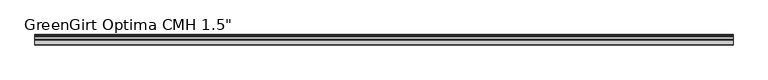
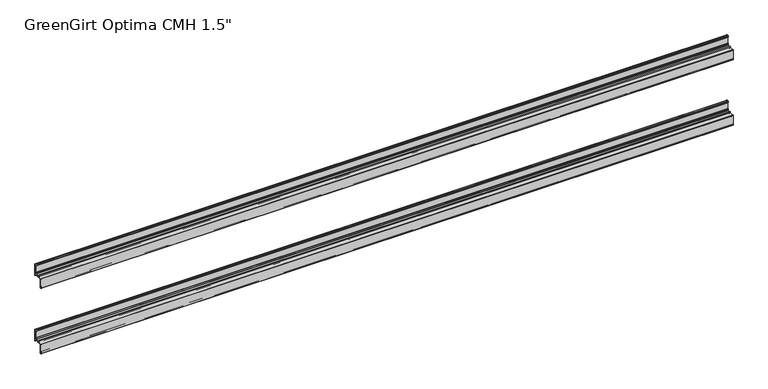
"""IFC4 building model written with IfcOpenShell, lengths in millimetres: fastener geometry."""

from ifc_helpers import new_model, si_unit, frame, origin, place, context, project, spatial, polyline, circle_curve, outline, extrude, source, transform, mapped, element, save
from ifc_brep_helpers import plane_surface, cylinder_surface, revolved_surface, advanced_brep


def fastener_0524ba7f(model_context):
    return source(origin(), model_context, "Body", "SolidModel", [
        advanced_brep(
        [(2540.1186361, -2.794, 1898.269), (2540.1186361, -2.794, 1866.9), (2540.1186361, -4.5212, 1866.9), (2540.1186361, -4.5212, 1871.091), (2540.1186361, -6.5532, 1871.091), (2540.1186361, -6.5532, 1866.9), (2540.1186361, -7.3152, 1866.138), (2540.1186361, -17.7601563, 1866.138), (2540.1186361, -17.7601563, 1866.9864433), (2540.1186361, -20.4288947, 1866.9864433), (2540.1186361, -20.4288947, 1866.138), (2540.1186361, -37.3379766, 1866.138), (2540.1186361, -38.0999766, 1865.376), (2540.1186361, -38.1, 1829.5196758), (2540.1186361, -37.3379766, 1828.8), (2540.1186361, -34.4677766, 1828.8), (2540.1186361, -32.4357766, 1830.832), (2540.1186361, -32.4357766, 1833.118), (2540.1186361, -34.4677766, 1833.118), (2540.1186361, -34.4677766, 1832.102), (2540.1186361, -36.1949766, 1832.102), (2540.1186361, -36.1949766, 1863.471), (2540.1186361, -34.4677766, 1863.471), (2540.1186361, -34.4677766, 1859.28), (2540.1186361, -32.4357766, 1859.28), (2540.1186361, -32.4357766, 1863.471), (2540.1186361, -31.6737766, 1864.233), (2540.1186361, -20.4279799, 1864.233), (2540.1186361, -20.4279799, 1863.3840993), (2540.1186361, -17.7601563, 1863.3840993), (2540.1186361, -17.7601563, 1864.233), (2540.1186361, -2.667, 1864.233), (2540.1186361, -1.905, 1863.471), (2540.1186361, -1.905, 1857.375), (2540.1186361, 0.0, 1857.375), (2540.1186361, 0.0, 1900.809), (2540.1186361, -0.762, 1901.571), (2540.1186361, -4.5212, 1901.571), (2540.1186361, -6.5532, 1899.539), (2540.1186361, -6.5532, 1897.253), (2540.1186361, -4.5212, 1897.253), (2540.1186361, -4.5212, 1898.269), (0.0, -2.794, 1898.269), (0.0, -4.5212, 1898.269), (0.0, -4.5212, 1897.253), (0.0, -6.5532, 1897.253), (0.0, -6.5532, 1899.539), (0.0, -4.5212, 1901.571), (0.0, -0.762, 1901.571), (0.0, 0.0, 1900.809), (0.0, 0.0, 1857.375), (0.0, -1.905, 1857.375), (0.0, -1.905, 1863.471), (0.0, -2.667, 1864.233), (0.0, -17.7601563, 1864.233), (0.0, -17.7601563, 1863.3840993), (0.0, -20.4279799, 1863.3840993), (0.0, -20.4279799, 1864.233), (0.0, -31.6737766, 1864.233), (0.0, -32.4357766, 1863.471), (0.0, -32.4357766, 1859.28), (0.0, -34.4677766, 1859.28), (0.0, -34.4677766, 1863.471), (0.0, -36.1949766, 1863.471), (0.0, -36.1949766, 1832.102), (0.0, -34.4677766, 1832.102), (0.0, -34.4677766, 1833.118), (0.0, -32.4357766, 1833.118), (0.0, -32.4357766, 1830.832), (0.0, -34.4677766, 1828.8), (0.0, -37.3379766, 1828.8), (0.0, -38.0999766, 1829.562), (0.0, -38.1, 1865.4033226), (0.0, -37.3379766, 1866.138), (0.0, -20.4288947, 1866.138), (0.0, -20.4288947, 1866.9864433), (0.0, -17.7601563, 1866.9864433), (0.0, -17.7601563, 1866.138), (0.0, -7.3152, 1866.138), (0.0, -6.5532, 1866.9), (0.0, -6.5532, 1871.091), (0.0, -4.5212, 1871.091), (0.0, -4.5212, 1866.9), (0.0, -2.794, 1866.9)],
        [
            (0, 1),
            (1, 2, circle_curve(frame((2540.1186361, -3.6576, 1866.9), z_axis=(-1.0, 0.0, 0.0), x_axis=(0.0, 1.0, 0.0)), 0.8636)),
            (2, 3),
            (3, 4, circle_curve(frame((2540.1186361, -5.5372, 1871.091), z_axis=(1.0, 0.0, 0.0), x_axis=(0.0, 1.0, 0.0)), 1.016)),
            (4, 5),
            (5, 6, circle_curve(frame((2540.1186361, -7.3152, 1866.9), z_axis=(-1.0, 0.0, 0.0), x_axis=(0.0, 1.0, 0.0)), 0.762)),
            (6, 7),
            (7, 8),
            (8, 9, circle_curve(frame((2540.1186361, -19.0945255, 1866.9864433), z_axis=(1.0, 0.0, 0.0), x_axis=(0.0, 1.0, 0.0)), 1.3343692)),
            (9, 10),
            (10, 11),
            (11, 12, circle_curve(frame((2540.1186361, -37.3379766, 1865.376), z_axis=(1.0, 0.0, 0.0), x_axis=(0.0, 1.0, 0.0)), 0.762)),
            (12, 13),
            (13, 14, circle_curve(frame((2540.1186361, -37.3379766, 1829.562), z_axis=(1.0, 0.0, 0.0), x_axis=(0.0, 1.0, 0.0)), 0.762)),
            (14, 15),
            (15, 16, circle_curve(frame((2540.1186361, -34.4677766, 1830.832), z_axis=(1.0, 0.0, 0.0), x_axis=(0.0, 1.0, 0.0)), 2.032)),
            (16, 17),
            (17, 18, circle_curve(frame((2540.1186361, -33.4517766, 1833.118), z_axis=(1.0, 0.0, 0.0), x_axis=(0.0, 1.0, 0.0)), 1.016)),
            (18, 19),
            (19, 20, circle_curve(frame((2540.1186361, -35.3313766, 1832.102), z_axis=(-1.0, 0.0, 0.0), x_axis=(0.0, 1.0, 0.0)), 0.8636)),
            (20, 21),
            (21, 22, circle_curve(frame((2540.1186361, -35.3313766, 1863.471), z_axis=(-1.0, 0.0, 0.0), x_axis=(0.0, 1.0, 0.0)), 0.8636)),
            (22, 23),
            (23, 24, circle_curve(frame((2540.1186361, -33.4517766, 1859.28), z_axis=(1.0, 0.0, 0.0), x_axis=(0.0, 1.0, 0.0)), 1.016)),
            (24, 25),
            (25, 26, circle_curve(frame((2540.1186361, -31.6737766, 1863.471), z_axis=(-1.0, 0.0, 0.0), x_axis=(0.0, 1.0, 0.0)), 0.762)),
            (26, 27),
            (27, 28),
            (28, 29, circle_curve(frame((2540.1186361, -19.0940681, 1863.3840993), z_axis=(1.0, 0.0, 0.0), x_axis=(0.0, 1.0, 0.0)), 1.3339118)),
            (29, 30),
            (30, 31),
            (31, 32, circle_curve(frame((2540.1186361, -2.667, 1863.471), z_axis=(-1.0, 0.0, 0.0), x_axis=(0.0, 1.0, 0.0)), 0.762)),
            (32, 33),
            (33, 34, circle_curve(frame((2540.1186361, -0.9525, 1857.375), z_axis=(1.0, 0.0, 0.0), x_axis=(0.0, 1.0, 0.0)), 0.9525)),
            (34, 35),
            (35, 36, circle_curve(frame((2540.1186361, -0.762, 1900.809), z_axis=(1.0, 0.0, 0.0), x_axis=(0.0, 1.0, 0.0)), 0.762)),
            (36, 37),
            (37, 38, circle_curve(frame((2540.1186361, -4.5212, 1899.539), z_axis=(1.0, 0.0, 0.0), x_axis=(0.0, 1.0, 0.0)), 2.032)),
            (38, 39),
            (39, 40, circle_curve(frame((2540.1186361, -5.5372, 1897.253), z_axis=(1.0, 0.0, 0.0), x_axis=(0.0, 1.0, 0.0)), 1.016)),
            (40, 41),
            (41, 0, circle_curve(frame((2540.1186361, -3.6576, 1898.269), z_axis=(-1.0, 0.0, 0.0), x_axis=(0.0, 1.0, 0.0)), 0.8636)),
            (42, 43, circle_curve(frame((0.0, -3.6576, 1898.269), z_axis=(1.0, 0.0, 0.0), x_axis=(0.0, 1.0, 0.0)), 0.8636)),
            (43, 44),
            (44, 45, circle_curve(frame((0.0, -5.5372, 1897.253), z_axis=(-1.0, 0.0, 0.0), x_axis=(0.0, 1.0, 0.0)), 1.016)),
            (45, 46),
            (46, 47, circle_curve(frame((0.0, -4.5212, 1899.539), z_axis=(-1.0, 0.0, 0.0), x_axis=(0.0, 1.0, 0.0)), 2.032)),
            (47, 48),
            (48, 49, circle_curve(frame((0.0, -0.762, 1900.809), z_axis=(-1.0, 0.0, 0.0), x_axis=(0.0, 1.0, 0.0)), 0.762)),
            (49, 50),
            (50, 51, circle_curve(frame((0.0, -0.9525, 1857.375), z_axis=(-1.0, 0.0, 0.0), x_axis=(0.0, 1.0, 0.0)), 0.9525)),
            (51, 52),
            (52, 53, circle_curve(frame((0.0, -2.667, 1863.471), z_axis=(1.0, 0.0, 0.0), x_axis=(0.0, 1.0, 0.0)), 0.762)),
            (53, 54),
            (54, 55),
            (55, 56, circle_curve(frame((0.0, -19.0940681, 1863.3840993), z_axis=(-1.0, 0.0, 0.0), x_axis=(0.0, 1.0, 0.0)), 1.3339118)),
            (56, 57),
            (57, 58),
            (58, 59, circle_curve(frame((0.0, -31.6737766, 1863.471), z_axis=(1.0, 0.0, 0.0), x_axis=(0.0, 1.0, 0.0)), 0.762)),
            (59, 60),
            (60, 61, circle_curve(frame((0.0, -33.4517766, 1859.28), z_axis=(-1.0, 0.0, 0.0), x_axis=(0.0, 1.0, 0.0)), 1.016)),
            (61, 62),
            (62, 63, circle_curve(frame((0.0, -35.3313766, 1863.471), z_axis=(1.0, 0.0, 0.0), x_axis=(0.0, 1.0, 0.0)), 0.8636)),
            (63, 64),
            (64, 65, circle_curve(frame((0.0, -35.3313766, 1832.102), z_axis=(1.0, 0.0, 0.0), x_axis=(0.0, 1.0, 0.0)), 0.8636)),
            (65, 66),
            (66, 67, circle_curve(frame((0.0, -33.4517766, 1833.118), z_axis=(-1.0, 0.0, 0.0), x_axis=(0.0, 1.0, 0.0)), 1.016)),
            (67, 68),
            (68, 69, circle_curve(frame((0.0, -34.4677766, 1830.832), z_axis=(-1.0, 0.0, 0.0), x_axis=(0.0, 1.0, 0.0)), 2.032)),
            (69, 70),
            (70, 71, circle_curve(frame((0.0, -37.3379766, 1829.562), z_axis=(-1.0, 0.0, 0.0), x_axis=(0.0, 1.0, 0.0)), 0.762)),
            (71, 72),
            (72, 73, circle_curve(frame((0.0, -37.3379766, 1865.376), z_axis=(-1.0, 0.0, 0.0), x_axis=(0.0, 1.0, 0.0)), 0.762)),
            (73, 74),
            (74, 75),
            (75, 76, circle_curve(frame((0.0, -19.0945255, 1866.9864433), z_axis=(-1.0, 0.0, 0.0), x_axis=(0.0, 1.0, 0.0)), 1.3343692)),
            (76, 77),
            (77, 78),
            (78, 79, circle_curve(frame((0.0, -7.3152, 1866.9), z_axis=(1.0, 0.0, 0.0), x_axis=(0.0, 1.0, 0.0)), 0.762)),
            (79, 80),
            (80, 81, circle_curve(frame((0.0, -5.5372, 1871.091), z_axis=(-1.0, 0.0, 0.0), x_axis=(0.0, 1.0, 0.0)), 1.016)),
            (81, 82),
            (82, 83, circle_curve(frame((0.0, -3.6576, 1866.9), z_axis=(1.0, 0.0, 0.0), x_axis=(0.0, 1.0, 0.0)), 0.8636)),
            (83, 42),
            (0, 42),
            (83, 1),
            (82, 2),
            (81, 3),
            (80, 4),
            (79, 5),
            (78, 6),
            (77, 7),
            (76, 8),
            (75, 9),
            (74, 10),
            (73, 11),
            (72, 12),
            (71, 13),
            (70, 14),
            (69, 15),
            (68, 16),
            (67, 17),
            (66, 18),
            (65, 19),
            (64, 20),
            (63, 21),
            (62, 22),
            (61, 23),
            (60, 24),
            (59, 25),
            (58, 26),
            (57, 27),
            (56, 28),
            (55, 29),
            (54, 30),
            (53, 31),
            (52, 32),
            (51, 33),
            (50, 34),
            (49, 35),
            (48, 36),
            (47, 37),
            (46, 38),
            (45, 39),
            (44, 40),
            (43, 41),
        ],
        [
            plane_surface(frame((2540.1186361, -2.794, 1866.9), z_axis=(1.0, 0.0, 0.0), x_axis=(0.0, 0.0, -1.0))),
            plane_surface(frame((0.0, -2.794, 1866.9), z_axis=(-1.0, 0.0, 0.0), x_axis=(0.0, 0.0, 1.0))),
            plane_surface(frame((2540.1186361, -2.794, 1898.269), z_axis=(0.0, -1.0, 0.0), x_axis=(-1.0, 0.0, 0.0))),
            revolved_surface(polyline([(0.0, -2.794, 1866.9), (2540.1186361, -2.794, 1866.9)]), (0.0, -3.6576, 1866.9), (-1.0, 0.0, 0.0)),
            plane_surface(frame((2540.1186361, -4.5212, 1866.9), z_axis=(0.0, 1.0, 0.0), x_axis=(-1.0, 0.0, 0.0))),
            cylinder_surface(frame((0.0, -5.5372, 1871.091), z_axis=(1.0, 0.0, 0.0), x_axis=(0.0, 1.0, 0.0)), 1.016),
            plane_surface(frame((2540.1186361, -6.5532, 1871.091), z_axis=(0.0, -1.0, 0.0), x_axis=(-1.0, 0.0, 0.0))),
            revolved_surface(polyline([(0.0, -6.5532, 1866.9), (2540.1186361, -6.5532, 1866.9)]), (0.0, -7.3152, 1866.9), (-1.0, 0.0, 0.0)),
            plane_surface(frame((2540.1186361, -7.3152, 1866.138), z_axis=(0.0, 0.0, 1.0), x_axis=(-1.0, 0.0, 0.0))),
            plane_surface(frame((2540.1186361, -17.7601563, 1866.138), z_axis=(0.0, 1.0, 0.0), x_axis=(-1.0, 0.0, 0.0))),
            cylinder_surface(frame((0.0, -19.0945255, 1866.9864433), z_axis=(1.0, 0.0, 0.0), x_axis=(0.0, 1.0, 0.0)), 1.3343692),
            plane_surface(frame((2540.1186361, -20.4288947, 1866.9864433), z_axis=(0.0, -1.0, 0.0), x_axis=(-1.0, 0.0, 0.0))),
            plane_surface(frame((2540.1186361, -20.4288947, 1866.138), z_axis=(0.0, 0.0, 1.0), x_axis=(-1.0, 0.0, 0.0))),
            cylinder_surface(frame((0.0, -37.3379766, 1865.376), z_axis=(1.0, 0.0, 0.0), x_axis=(0.0, 1.0, 0.0)), 0.762),
            plane_surface(frame((2540.1186361, -38.1, 1865.4033226), z_axis=(0.0, -1.0, 0.0), x_axis=(-1.0, 0.0, 0.0))),
            cylinder_surface(frame((0.0, -37.3379766, 1829.562), z_axis=(1.0, 0.0, 0.0), x_axis=(0.0, 1.0, 0.0)), 0.762),
            plane_surface(frame((2540.1186361, -37.3379766, 1828.8), z_axis=(0.0, 1.174281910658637e-11, -1.0), x_axis=(-1.0, 0.0, 0.0))),
            cylinder_surface(frame((0.0, -34.4677766, 1830.832), z_axis=(1.0, 0.0, 0.0), x_axis=(0.0, 1.0, 0.0)), 2.032),
            plane_surface(frame((2540.1186361, -32.4357766, 1830.832), z_axis=(0.0, 1.0, 7.57912251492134e-12), x_axis=(-1.0, 0.0, 0.0))),
            cylinder_surface(frame((0.0, -33.4517766, 1833.118), z_axis=(1.0, 0.0, 0.0), x_axis=(0.0, 1.0, 0.0)), 1.016),
            plane_surface(frame((2540.1186361, -34.4677766, 1833.118), z_axis=(0.0, -1.0, -1.7053025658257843e-11), x_axis=(-1.0, 0.0, 0.0))),
            revolved_surface(polyline([(0.0, -34.4677766, 1832.102), (2540.1186361, -34.4677766, 1832.102)]), (0.0, -35.3313766, 1832.102), (-1.0, 0.0, 0.0)),
            plane_surface(frame((2540.1186361, -36.1949766, 1832.102), z_axis=(0.0, 1.0, 0.0), x_axis=(-1.0, 0.0, 0.0))),
            revolved_surface(polyline([(0.0, -34.4677766, 1863.471), (2540.1186361, -34.4677766, 1863.471)]), (0.0, -35.3313766, 1863.471), (-1.0, 0.0, 0.0)),
            plane_surface(frame((2540.1186361, -34.4677766, 1863.471), z_axis=(0.0, -1.0, 0.0), x_axis=(-1.0, 0.0, 0.0))),
            cylinder_surface(frame((0.0, -33.4517766, 1859.28), z_axis=(1.0, 0.0, 0.0), x_axis=(0.0, 1.0, 0.0)), 1.016),
            plane_surface(frame((2540.1186361, -32.4357766, 1859.28), z_axis=(0.0, 1.0, 0.0), x_axis=(-1.0, 0.0, 0.0))),
            revolved_surface(polyline([(0.0, -30.9117766, 1863.471), (2540.1186361, -30.9117766, 1863.471)]), (0.0, -31.6737766, 1863.471), (-1.0, 0.0, 0.0)),
            plane_surface(frame((2540.1186361, -31.6737766, 1864.233), z_axis=(0.0, 0.0, -1.0), x_axis=(-1.0, 0.0, 0.0))),
            plane_surface(frame((2540.1186361, -20.4279799, 1864.233), z_axis=(0.0, -1.0, 0.0), x_axis=(-1.0, 0.0, 0.0))),
            cylinder_surface(frame((0.0, -19.0940681, 1863.3840993), z_axis=(1.0, 0.0, 0.0), x_axis=(0.0, 1.0, 0.0)), 1.3339118),
            plane_surface(frame((2540.1186361, -17.7601563, 1863.3840993), z_axis=(0.0, 1.0, 0.0), x_axis=(-1.0, 0.0, 0.0))),
            plane_surface(frame((2540.1186361, -17.7601563, 1864.233), z_axis=(0.0, 0.0, -1.0), x_axis=(-1.0, 0.0, 0.0))),
            revolved_surface(polyline([(0.0, -1.9049999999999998, 1863.471), (2540.1186361, -1.9049999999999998, 1863.471)]), (0.0, -2.667, 1863.471), (-1.0, 0.0, 0.0)),
            plane_surface(frame((2540.1186361, -1.905, 1863.471), z_axis=(0.0, -1.0, 0.0), x_axis=(-1.0, 0.0, 0.0))),
            cylinder_surface(frame((0.0, -0.9525, 1857.375), z_axis=(1.0, 0.0, 0.0), x_axis=(0.0, 1.0, 0.0)), 0.9525),
            plane_surface(frame((2540.1186361, 0.0, 1857.375), z_axis=(0.0, 1.0, 0.0), x_axis=(-1.0, 0.0, 0.0))),
            cylinder_surface(frame((0.0, -0.762, 1900.809), z_axis=(1.0, 0.0, 0.0), x_axis=(0.0, 1.0, 0.0)), 0.762),
            plane_surface(frame((2540.1186361, -0.762, 1901.571), z_axis=(0.0, 2.6818637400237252e-11, 1.0), x_axis=(-1.0, 0.0, 0.0))),
            cylinder_surface(frame((0.0, -4.5212, 1899.539), z_axis=(1.0, 0.0, 0.0), x_axis=(0.0, 1.0, 0.0)), 2.032),
            plane_surface(frame((2540.1186361, -6.5532, 1899.539), z_axis=(0.0, -1.0, 0.0), x_axis=(-1.0, 0.0, 0.0))),
            cylinder_surface(frame((0.0, -5.5372, 1897.253), z_axis=(1.0, 0.0, 0.0), x_axis=(0.0, 1.0, 0.0)), 1.016),
            plane_surface(frame((2540.1186361, -4.5212, 1897.253), z_axis=(0.0, 1.0, 0.0), x_axis=(-1.0, 0.0, 0.0))),
            revolved_surface(polyline([(0.0, -2.794, 1898.269), (2540.1186361, -2.794, 1898.269)]), (0.0, -3.6576, 1898.269), (-1.0, 0.0, 0.0)),
        ],
        [
            (0, [[1, 2, 3, 4, 5, 6, 7, 8, 9, 10, 11, 12, 13, 14, 15, 16, 17, 18, 19, 20, 21, 22, 23, 24, 25, 26, 27, 28, 29, 30, 31, 32, 33, 34, 35, 36, 37, 38, 39, 40, 41, 42]]),
            (1, [[43, 44, 45, 46, 47, 48, 49, 50, 51, 52, 53, 54, 55, 56, 57, 58, 59, 60, 61, 62, 63, 64, 65, 66, 67, 68, 69, 70, 71, 72, 73, 74, 75, 76, 77, 78, 79, 80, 81, 82, 83, 84]]),
            (2, [[-1, 85, -84, 86]]),
            (3, [[-2, -86, -83, 87]]),
            (4, [[-3, -87, -82, 88]]),
            (5, [[-4, -88, -81, 89]]),
            (6, [[-5, -89, -80, 90]]),
            (7, [[-6, -90, -79, 91]]),
            (8, [[-7, -91, -78, 92]]),
            (9, [[-8, -92, -77, 93]]),
            (10, [[-9, -93, -76, 94]]),
            (11, [[-10, -94, -75, 95]]),
            (12, [[-11, -95, -74, 96]]),
            (13, [[-12, -96, -73, 97]]),
            (14, [[-13, -97, -72, 98]]),
            (15, [[-14, -98, -71, 99]]),
            (16, [[-15, -99, -70, 100]]),
            (17, [[-16, -100, -69, 101]]),
            (18, [[-17, -101, -68, 102]]),
            (19, [[-18, -102, -67, 103]]),
            (20, [[-19, -103, -66, 104]]),
            (21, [[-20, -104, -65, 105]]),
            (22, [[-21, -105, -64, 106]]),
            (23, [[-22, -106, -63, 107]]),
            (24, [[-23, -107, -62, 108]]),
            (25, [[-24, -108, -61, 109]]),
            (26, [[-25, -109, -60, 110]]),
            (27, [[-26, -110, -59, 111]]),
            (28, [[-27, -111, -58, 112]]),
            (29, [[-28, -112, -57, 113]]),
            (30, [[-29, -113, -56, 114]]),
            (31, [[-30, -114, -55, 115]]),
            (32, [[-31, -115, -54, 116]]),
            (33, [[-32, -116, -53, 117]]),
            (34, [[-33, -117, -52, 118]]),
            (35, [[-34, -118, -51, 119]]),
            (36, [[-35, -119, -50, 120]]),
            (37, [[-36, -120, -49, 121]]),
            (38, [[-37, -121, -48, 122]]),
            (39, [[-38, -122, -47, 123]]),
            (40, [[-39, -123, -46, 124]]),
            (41, [[-40, -124, -45, 125]]),
            (42, [[-41, -125, -44, 126]]),
            (43, [[-42, -126, -43, -85]]),
        ],
    ),
        extrude(outline(polyline([(2540.1186361, -2.794), (2540.1186361, -4.5212), (0.0, -4.5212), (0.0, -2.794), (2540.1186361, -2.794)])), frame((0.0, 0.0, 1867.281), z_axis=(0.0, 0.0, 1.0), x_axis=(1.0, 0.0, 0.0)), (0.0, 0.0, 1.0), 30.988),
        extrude(outline(polyline([(2540.1186361, -34.4677766), (2540.1186361, -36.1949766), (0.0, -36.1949766), (0.0, -34.4677766), (2540.1186361, -34.4677766)])), frame((0.0, 0.0, 1832.102), z_axis=(0.0, 0.0, 1.0), x_axis=(1.0, 0.0, 0.0)), (0.0, 0.0, 1.0), 30.988),
        advanced_brep(
        [(2540.1186361, -2.794, 1644.269), (2540.1186361, -2.794, 1612.9), (2540.1186361, -4.5212, 1612.9), (2540.1186361, -4.5212, 1617.091), (2540.1186361, -6.5532, 1617.091), (2540.1186361, -6.5532, 1612.9), (2540.1186361, -7.3152, 1612.138), (2540.1186361, -17.7601563, 1612.138), (2540.1186361, -17.7601563, 1612.9864433), (2540.1186361, -20.4288947, 1612.9864433), (2540.1186361, -20.4288947, 1612.138), (2540.1186361, -37.3379766, 1612.138), (2540.1186361, -38.0999766, 1611.376), (2540.1186361, -38.1, 1575.5196758), (2540.1186361, -37.3379766, 1574.8), (2540.1186361, -34.4677766, 1574.8), (2540.1186361, -32.4357766, 1576.832), (2540.1186361, -32.4357766, 1579.118), (2540.1186361, -34.4677766, 1579.118), (2540.1186361, -34.4677766, 1578.102), (2540.1186361, -36.1949766, 1578.102), (2540.1186361, -36.1949766, 1609.471), (2540.1186361, -34.4677766, 1609.471), (2540.1186361, -34.4677766, 1605.28), (2540.1186361, -32.4357766, 1605.28), (2540.1186361, -32.4357766, 1609.471), (2540.1186361, -31.6737766, 1610.233), (2540.1186361, -20.4279799, 1610.233), (2540.1186361, -20.4279799, 1609.3840993), (2540.1186361, -17.7601563, 1609.3840993), (2540.1186361, -17.7601563, 1610.233), (2540.1186361, -2.667, 1610.233), (2540.1186361, -1.905, 1609.471), (2540.1186361, -1.905, 1603.375), (2540.1186361, 0.0, 1603.375), (2540.1186361, 0.0, 1646.809), (2540.1186361, -0.762, 1647.571), (2540.1186361, -4.5212, 1647.571), (2540.1186361, -6.5532, 1645.539), (2540.1186361, -6.5532, 1643.253), (2540.1186361, -4.5212, 1643.253), (2540.1186361, -4.5212, 1644.269), (0.0, -2.794, 1644.269), (0.0, -4.5212, 1644.269), (0.0, -4.5212, 1643.253), (0.0, -6.5532, 1643.253), (0.0, -6.5532, 1645.539), (0.0, -4.5212, 1647.571), (0.0, -0.762, 1647.571), (0.0, 0.0, 1646.809), (0.0, 0.0, 1603.375), (0.0, -1.905, 1603.375), (0.0, -1.905, 1609.471), (0.0, -2.667, 1610.233), (0.0, -17.7601563, 1610.233), (0.0, -17.7601563, 1609.3840993), (0.0, -20.4279799, 1609.3840993), (0.0, -20.4279799, 1610.233), (0.0, -31.6737766, 1610.233), (0.0, -32.4357766, 1609.471), (0.0, -32.4357766, 1605.28), (0.0, -34.4677766, 1605.28), (0.0, -34.4677766, 1609.471), (0.0, -36.1949766, 1609.471), (0.0, -36.1949766, 1578.102), (0.0, -34.4677766, 1578.102), (0.0, -34.4677766, 1579.118), (0.0, -32.4357766, 1579.118), (0.0, -32.4357766, 1576.832), (0.0, -34.4677766, 1574.8), (0.0, -37.3379766, 1574.8), (0.0, -38.0999766, 1575.562), (0.0, -38.1, 1611.4033226), (0.0, -37.3379766, 1612.138), (0.0, -20.4288947, 1612.138), (0.0, -20.4288947, 1612.9864433), (0.0, -17.7601563, 1612.9864433), (0.0, -17.7601563, 1612.138), (0.0, -7.3152, 1612.138), (0.0, -6.5532, 1612.9), (0.0, -6.5532, 1617.091), (0.0, -4.5212, 1617.091), (0.0, -4.5212, 1612.9), (0.0, -2.794, 1612.9)],
        [
            (0, 1),
            (1, 2, circle_curve(frame((2540.1186361, -3.6576, 1612.9), z_axis=(-1.0, 0.0, 0.0), x_axis=(0.0, 1.0, 0.0)), 0.8636)),
            (2, 3),
            (3, 4, circle_curve(frame((2540.1186361, -5.5372, 1617.091), z_axis=(1.0, 0.0, 0.0), x_axis=(0.0, 1.0, 0.0)), 1.016)),
            (4, 5),
            (5, 6, circle_curve(frame((2540.1186361, -7.3152, 1612.9), z_axis=(-1.0, 0.0, 0.0), x_axis=(0.0, 1.0, 0.0)), 0.762)),
            (6, 7),
            (7, 8),
            (8, 9, circle_curve(frame((2540.1186361, -19.0945255, 1612.9864433), z_axis=(1.0, 0.0, 0.0), x_axis=(0.0, 1.0, 0.0)), 1.3343692)),
            (9, 10),
            (10, 11),
            (11, 12, circle_curve(frame((2540.1186361, -37.3379766, 1611.376), z_axis=(1.0, 0.0, 0.0), x_axis=(0.0, 1.0, 0.0)), 0.762)),
            (12, 13),
            (13, 14, circle_curve(frame((2540.1186361, -37.3379766, 1575.562), z_axis=(1.0, 0.0, 0.0), x_axis=(0.0, 1.0, 0.0)), 0.762)),
            (14, 15),
            (15, 16, circle_curve(frame((2540.1186361, -34.4677766, 1576.832), z_axis=(1.0, 0.0, 0.0), x_axis=(0.0, 1.0, 0.0)), 2.032)),
            (16, 17),
            (17, 18, circle_curve(frame((2540.1186361, -33.4517766, 1579.118), z_axis=(1.0, 0.0, 0.0), x_axis=(0.0, 1.0, 0.0)), 1.016)),
            (18, 19),
            (19, 20, circle_curve(frame((2540.1186361, -35.3313766, 1578.102), z_axis=(-1.0, 0.0, 0.0), x_axis=(0.0, 1.0, 0.0)), 0.8636)),
            (20, 21),
            (21, 22, circle_curve(frame((2540.1186361, -35.3313766, 1609.471), z_axis=(-1.0, 0.0, 0.0), x_axis=(0.0, 1.0, 0.0)), 0.8636)),
            (22, 23),
            (23, 24, circle_curve(frame((2540.1186361, -33.4517766, 1605.28), z_axis=(1.0, 0.0, 0.0), x_axis=(0.0, 1.0, 0.0)), 1.016)),
            (24, 25),
            (25, 26, circle_curve(frame((2540.1186361, -31.6737766, 1609.471), z_axis=(-1.0, 0.0, 0.0), x_axis=(0.0, 1.0, 0.0)), 0.762)),
            (26, 27),
            (27, 28),
            (28, 29, circle_curve(frame((2540.1186361, -19.0940681, 1609.3840993), z_axis=(1.0, 0.0, 0.0), x_axis=(0.0, 1.0, 0.0)), 1.3339118)),
            (29, 30),
            (30, 31),
            (31, 32, circle_curve(frame((2540.1186361, -2.667, 1609.471), z_axis=(-1.0, 0.0, 0.0), x_axis=(0.0, 1.0, 0.0)), 0.762)),
            (32, 33),
            (33, 34, circle_curve(frame((2540.1186361, -0.9525, 1603.375), z_axis=(1.0, 0.0, 0.0), x_axis=(0.0, 1.0, 0.0)), 0.9525)),
            (34, 35),
            (35, 36, circle_curve(frame((2540.1186361, -0.762, 1646.809), z_axis=(1.0, 0.0, 0.0), x_axis=(0.0, 1.0, 0.0)), 0.762)),
            (36, 37),
            (37, 38, circle_curve(frame((2540.1186361, -4.5212, 1645.539), z_axis=(1.0, 0.0, 0.0), x_axis=(0.0, 1.0, 0.0)), 2.032)),
            (38, 39),
            (39, 40, circle_curve(frame((2540.1186361, -5.5372, 1643.253), z_axis=(1.0, 0.0, 0.0), x_axis=(0.0, 1.0, 0.0)), 1.016)),
            (40, 41),
            (41, 0, circle_curve(frame((2540.1186361, -3.6576, 1644.269), z_axis=(-1.0, 0.0, 0.0), x_axis=(0.0, 1.0, 0.0)), 0.8636)),
            (42, 43, circle_curve(frame((0.0, -3.6576, 1644.269), z_axis=(1.0, 0.0, 0.0), x_axis=(0.0, 1.0, 0.0)), 0.8636)),
            (43, 44),
            (44, 45, circle_curve(frame((0.0, -5.5372, 1643.253), z_axis=(-1.0, 0.0, 0.0), x_axis=(0.0, 1.0, 0.0)), 1.016)),
            (45, 46),
            (46, 47, circle_curve(frame((0.0, -4.5212, 1645.539), z_axis=(-1.0, 0.0, 0.0), x_axis=(0.0, 1.0, 0.0)), 2.032)),
            (47, 48),
            (48, 49, circle_curve(frame((0.0, -0.762, 1646.809), z_axis=(-1.0, 0.0, 0.0), x_axis=(0.0, 1.0, 0.0)), 0.762)),
            (49, 50),
            (50, 51, circle_curve(frame((0.0, -0.9525, 1603.375), z_axis=(-1.0, 0.0, 0.0), x_axis=(0.0, 1.0, 0.0)), 0.9525)),
            (51, 52),
            (52, 53, circle_curve(frame((0.0, -2.667, 1609.471), z_axis=(1.0, 0.0, 0.0), x_axis=(0.0, 1.0, 0.0)), 0.762)),
            (53, 54),
            (54, 55),
            (55, 56, circle_curve(frame((0.0, -19.0940681, 1609.3840993), z_axis=(-1.0, 0.0, 0.0), x_axis=(0.0, 1.0, 0.0)), 1.3339118)),
            (56, 57),
            (57, 58),
            (58, 59, circle_curve(frame((0.0, -31.6737766, 1609.471), z_axis=(1.0, 0.0, 0.0), x_axis=(0.0, 1.0, 0.0)), 0.762)),
            (59, 60),
            (60, 61, circle_curve(frame((0.0, -33.4517766, 1605.28), z_axis=(-1.0, 0.0, 0.0), x_axis=(0.0, 1.0, 0.0)), 1.016)),
            (61, 62),
            (62, 63, circle_curve(frame((0.0, -35.3313766, 1609.471), z_axis=(1.0, 0.0, 0.0), x_axis=(0.0, 1.0, 0.0)), 0.8636)),
            (63, 64),
            (64, 65, circle_curve(frame((0.0, -35.3313766, 1578.102), z_axis=(1.0, 0.0, 0.0), x_axis=(0.0, 1.0, 0.0)), 0.8636)),
            (65, 66),
            (66, 67, circle_curve(frame((0.0, -33.4517766, 1579.118), z_axis=(-1.0, 0.0, 0.0), x_axis=(0.0, 1.0, 0.0)), 1.016)),
            (67, 68),
            (68, 69, circle_curve(frame((0.0, -34.4677766, 1576.832), z_axis=(-1.0, 0.0, 0.0), x_axis=(0.0, 1.0, 0.0)), 2.032)),
            (69, 70),
            (70, 71, circle_curve(frame((0.0, -37.3379766, 1575.562), z_axis=(-1.0, 0.0, 0.0), x_axis=(0.0, 1.0, 0.0)), 0.762)),
            (71, 72),
            (72, 73, circle_curve(frame((0.0, -37.3379766, 1611.376), z_axis=(-1.0, 0.0, 0.0), x_axis=(0.0, 1.0, 0.0)), 0.762)),
            (73, 74),
            (74, 75),
            (75, 76, circle_curve(frame((0.0, -19.0945255, 1612.9864433), z_axis=(-1.0, 0.0, 0.0), x_axis=(0.0, 1.0, 0.0)), 1.3343692)),
            (76, 77),
            (77, 78),
            (78, 79, circle_curve(frame((0.0, -7.3152, 1612.9), z_axis=(1.0, 0.0, 0.0), x_axis=(0.0, 1.0, 0.0)), 0.762)),
            (79, 80),
            (80, 81, circle_curve(frame((0.0, -5.5372, 1617.091), z_axis=(-1.0, 0.0, 0.0), x_axis=(0.0, 1.0, 0.0)), 1.016)),
            (81, 82),
            (82, 83, circle_curve(frame((0.0, -3.6576, 1612.9), z_axis=(1.0, 0.0, 0.0), x_axis=(0.0, 1.0, 0.0)), 0.8636)),
            (83, 42),
            (0, 42),
            (83, 1),
            (82, 2),
            (81, 3),
            (80, 4),
            (79, 5),
            (78, 6),
            (77, 7),
            (76, 8),
            (75, 9),
            (74, 10),
            (73, 11),
            (72, 12),
            (71, 13),
            (70, 14),
            (69, 15),
            (68, 16),
            (67, 17),
            (66, 18),
            (65, 19),
            (64, 20),
            (63, 21),
            (62, 22),
            (61, 23),
            (60, 24),
            (59, 25),
            (58, 26),
            (57, 27),
            (56, 28),
            (55, 29),
            (54, 30),
            (53, 31),
            (52, 32),
            (51, 33),
            (50, 34),
            (49, 35),
            (48, 36),
            (47, 37),
            (46, 38),
            (45, 39),
            (44, 40),
            (43, 41),
        ],
        [
            plane_surface(frame((2540.1186361, -2.794, 1612.9), z_axis=(1.0, 0.0, 0.0), x_axis=(0.0, 0.0, -1.0))),
            plane_surface(frame((0.0, -2.794, 1612.9), z_axis=(-1.0, 0.0, 0.0), x_axis=(0.0, 0.0, 1.0))),
            plane_surface(frame((2540.1186361, -2.794, 1644.269), z_axis=(0.0, -1.0, 0.0), x_axis=(-1.0, 0.0, 0.0))),
            revolved_surface(polyline([(0.0, -2.794, 1612.9), (2540.1186361, -2.794, 1612.9)]), (0.0, -3.6576, 1612.9), (-1.0, 0.0, 0.0)),
            plane_surface(frame((2540.1186361, -4.5212, 1612.9), z_axis=(0.0, 1.0, 0.0), x_axis=(-1.0, 0.0, 0.0))),
            cylinder_surface(frame((0.0, -5.5372, 1617.091), z_axis=(1.0, 0.0, 0.0), x_axis=(0.0, 1.0, 0.0)), 1.016),
            plane_surface(frame((2540.1186361, -6.5532, 1617.091), z_axis=(0.0, -1.0, 0.0), x_axis=(-1.0, 0.0, 0.0))),
            revolved_surface(polyline([(0.0, -6.5532, 1612.9), (2540.1186361, -6.5532, 1612.9)]), (0.0, -7.3152, 1612.9), (-1.0, 0.0, 0.0)),
            plane_surface(frame((2540.1186361, -7.3152, 1612.138), z_axis=(0.0, 0.0, 1.0), x_axis=(-1.0, 0.0, 0.0))),
            plane_surface(frame((2540.1186361, -17.7601563, 1612.138), z_axis=(0.0, 1.0, 0.0), x_axis=(-1.0, 0.0, 0.0))),
            cylinder_surface(frame((0.0, -19.0945255, 1612.9864433), z_axis=(1.0, 0.0, 0.0), x_axis=(0.0, 1.0, 0.0)), 1.3343692),
            plane_surface(frame((2540.1186361, -20.4288947, 1612.9864433), z_axis=(0.0, -1.0, 0.0), x_axis=(-1.0, 0.0, 0.0))),
            plane_surface(frame((2540.1186361, -20.4288947, 1612.138), z_axis=(0.0, 0.0, 1.0), x_axis=(-1.0, 0.0, 0.0))),
            cylinder_surface(frame((0.0, -37.3379766, 1611.376), z_axis=(1.0, 0.0, 0.0), x_axis=(0.0, 1.0, 0.0)), 0.762),
            plane_surface(frame((2540.1186361, -38.1, 1611.4033226), z_axis=(0.0, -1.0, 0.0), x_axis=(-1.0, 0.0, 0.0))),
            cylinder_surface(frame((0.0, -37.3379766, 1575.562), z_axis=(1.0, 0.0, 0.0), x_axis=(0.0, 1.0, 0.0)), 0.762),
            plane_surface(frame((2540.1186361, -37.3379766, 1574.8), z_axis=(0.0, 1.174281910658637e-11, -1.0), x_axis=(-1.0, 0.0, 0.0))),
            cylinder_surface(frame((0.0, -34.4677766, 1576.832), z_axis=(1.0, 0.0, 0.0), x_axis=(0.0, 1.0, 0.0)), 2.032),
            plane_surface(frame((2540.1186361, -32.4357766, 1576.832), z_axis=(0.0, 1.0, 7.57912251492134e-12), x_axis=(-1.0, 0.0, 0.0))),
            cylinder_surface(frame((0.0, -33.4517766, 1579.118), z_axis=(1.0, 0.0, 0.0), x_axis=(0.0, 1.0, 0.0)), 1.016),
            plane_surface(frame((2540.1186361, -34.4677766, 1579.118), z_axis=(0.0, -1.0, -1.7053025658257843e-11), x_axis=(-1.0, 0.0, 0.0))),
            revolved_surface(polyline([(0.0, -34.4677766, 1578.102), (2540.1186361, -34.4677766, 1578.102)]), (0.0, -35.3313766, 1578.102), (-1.0, 0.0, 0.0)),
            plane_surface(frame((2540.1186361, -36.1949766, 1578.102), z_axis=(0.0, 1.0, 0.0), x_axis=(-1.0, 0.0, 0.0))),
            revolved_surface(polyline([(0.0, -34.4677766, 1609.471), (2540.1186361, -34.4677766, 1609.471)]), (0.0, -35.3313766, 1609.471), (-1.0, 0.0, 0.0)),
            plane_surface(frame((2540.1186361, -34.4677766, 1609.471), z_axis=(0.0, -1.0, 0.0), x_axis=(-1.0, 0.0, 0.0))),
            cylinder_surface(frame((0.0, -33.4517766, 1605.28), z_axis=(1.0, 0.0, 0.0), x_axis=(0.0, 1.0, 0.0)), 1.016),
            plane_surface(frame((2540.1186361, -32.4357766, 1605.28), z_axis=(0.0, 1.0, 0.0), x_axis=(-1.0, 0.0, 0.0))),
            revolved_surface(polyline([(0.0, -30.9117766, 1609.471), (2540.1186361, -30.9117766, 1609.471)]), (0.0, -31.6737766, 1609.471), (-1.0, 0.0, 0.0)),
            plane_surface(frame((2540.1186361, -31.6737766, 1610.233), z_axis=(0.0, 0.0, -1.0), x_axis=(-1.0, 0.0, 0.0))),
            plane_surface(frame((2540.1186361, -20.4279799, 1610.233), z_axis=(0.0, -1.0, 0.0), x_axis=(-1.0, 0.0, 0.0))),
            cylinder_surface(frame((0.0, -19.0940681, 1609.3840993), z_axis=(1.0, 0.0, 0.0), x_axis=(0.0, 1.0, 0.0)), 1.3339118),
            plane_surface(frame((2540.1186361, -17.7601563, 1609.3840993), z_axis=(0.0, 1.0, 0.0), x_axis=(-1.0, 0.0, 0.0))),
            plane_surface(frame((2540.1186361, -17.7601563, 1610.233), z_axis=(0.0, 0.0, -1.0), x_axis=(-1.0, 0.0, 0.0))),
            revolved_surface(polyline([(0.0, -1.9049999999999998, 1609.471), (2540.1186361, -1.9049999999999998, 1609.471)]), (0.0, -2.667, 1609.471), (-1.0, 0.0, 0.0)),
            plane_surface(frame((2540.1186361, -1.905, 1609.471), z_axis=(0.0, -1.0, 0.0), x_axis=(-1.0, 0.0, 0.0))),
            cylinder_surface(frame((0.0, -0.9525, 1603.375), z_axis=(1.0, 0.0, 0.0), x_axis=(0.0, 1.0, 0.0)), 0.9525),
            plane_surface(frame((2540.1186361, 0.0, 1603.375), z_axis=(0.0, 1.0, 0.0), x_axis=(-1.0, 0.0, 0.0))),
            cylinder_surface(frame((0.0, -0.762, 1646.809), z_axis=(1.0, 0.0, 0.0), x_axis=(0.0, 1.0, 0.0)), 0.762),
            plane_surface(frame((2540.1186361, -0.762, 1647.571), z_axis=(0.0, 2.6818637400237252e-11, 1.0), x_axis=(-1.0, 0.0, 0.0))),
            cylinder_surface(frame((0.0, -4.5212, 1645.539), z_axis=(1.0, 0.0, 0.0), x_axis=(0.0, 1.0, 0.0)), 2.032),
            plane_surface(frame((2540.1186361, -6.5532, 1645.539), z_axis=(0.0, -1.0, 0.0), x_axis=(-1.0, 0.0, 0.0))),
            cylinder_surface(frame((0.0, -5.5372, 1643.253), z_axis=(1.0, 0.0, 0.0), x_axis=(0.0, 1.0, 0.0)), 1.016),
            plane_surface(frame((2540.1186361, -4.5212, 1643.253), z_axis=(0.0, 1.0, 0.0), x_axis=(-1.0, 0.0, 0.0))),
            revolved_surface(polyline([(0.0, -2.794, 1644.269), (2540.1186361, -2.794, 1644.269)]), (0.0, -3.6576, 1644.269), (-1.0, 0.0, 0.0)),
        ],
        [
            (0, [[1, 2, 3, 4, 5, 6, 7, 8, 9, 10, 11, 12, 13, 14, 15, 16, 17, 18, 19, 20, 21, 22, 23, 24, 25, 26, 27, 28, 29, 30, 31, 32, 33, 34, 35, 36, 37, 38, 39, 40, 41, 42]]),
            (1, [[43, 44, 45, 46, 47, 48, 49, 50, 51, 52, 53, 54, 55, 56, 57, 58, 59, 60, 61, 62, 63, 64, 65, 66, 67, 68, 69, 70, 71, 72, 73, 74, 75, 76, 77, 78, 79, 80, 81, 82, 83, 84]]),
            (2, [[-1, 85, -84, 86]]),
            (3, [[-2, -86, -83, 87]]),
            (4, [[-3, -87, -82, 88]]),
            (5, [[-4, -88, -81, 89]]),
            (6, [[-5, -89, -80, 90]]),
            (7, [[-6, -90, -79, 91]]),
            (8, [[-7, -91, -78, 92]]),
            (9, [[-8, -92, -77, 93]]),
            (10, [[-9, -93, -76, 94]]),
            (11, [[-10, -94, -75, 95]]),
            (12, [[-11, -95, -74, 96]]),
            (13, [[-12, -96, -73, 97]]),
            (14, [[-13, -97, -72, 98]]),
            (15, [[-14, -98, -71, 99]]),
            (16, [[-15, -99, -70, 100]]),
            (17, [[-16, -100, -69, 101]]),
            (18, [[-17, -101, -68, 102]]),
            (19, [[-18, -102, -67, 103]]),
            (20, [[-19, -103, -66, 104]]),
            (21, [[-20, -104, -65, 105]]),
            (22, [[-21, -105, -64, 106]]),
            (23, [[-22, -106, -63, 107]]),
            (24, [[-23, -107, -62, 108]]),
            (25, [[-24, -108, -61, 109]]),
            (26, [[-25, -109, -60, 110]]),
            (27, [[-26, -110, -59, 111]]),
            (28, [[-27, -111, -58, 112]]),
            (29, [[-28, -112, -57, 113]]),
            (30, [[-29, -113, -56, 114]]),
            (31, [[-30, -114, -55, 115]]),
            (32, [[-31, -115, -54, 116]]),
            (33, [[-32, -116, -53, 117]]),
            (34, [[-33, -117, -52, 118]]),
            (35, [[-34, -118, -51, 119]]),
            (36, [[-35, -119, -50, 120]]),
            (37, [[-36, -120, -49, 121]]),
            (38, [[-37, -121, -48, 122]]),
            (39, [[-38, -122, -47, 123]]),
            (40, [[-39, -123, -46, 124]]),
            (41, [[-40, -124, -45, 125]]),
            (42, [[-41, -125, -44, 126]]),
            (43, [[-42, -126, -43, -85]]),
        ],
    ),
        extrude(outline(polyline([(2540.1186361, -2.794), (2540.1186361, -4.5212), (0.0, -4.5212), (0.0, -2.794), (2540.1186361, -2.794)])), frame((0.0, 0.0, 1613.281), z_axis=(0.0, 0.0, 1.0), x_axis=(1.0, 0.0, 0.0)), (0.0, 0.0, 1.0), 30.988),
        extrude(outline(polyline([(2540.1186361, -34.4677766), (2540.1186361, -36.1949766), (0.0, -36.1949766), (0.0, -34.4677766), (2540.1186361, -34.4677766)])), frame((0.0, 0.0, 1578.102), z_axis=(0.0, 0.0, 1.0), x_axis=(1.0, 0.0, 0.0)), (0.0, 0.0, 1.0), 30.988),
    ])


if __name__ == "__main__":
    model = new_model("IFC4")
    model_context = context("Model", 3, world=origin())
    ifc_project = project(units=[si_unit("LENGTHUNIT", "METRE", prefix="MILLI")], contexts=[model_context])
    site = spatial("IfcSite", under=ifc_project)
    building = spatial("IfcBuilding", under=site)
    placement = place(None, origin())
    fastener_shape = fastener_0524ba7f(model_context)
    element("IfcFastener", 1, ObjectType="Structural-Supporting-Components_Advanced-Architectural-Products_GreenGirt-Optima-CMH-System : GreenGirt Optima CMH 1.5\"", at=placement, inside=building, context=model_context, shape_type="MappedRepresentation", body=[
        mapped(fastener_shape, transform((0.0, 0.0, 0.0), x_axis=(1.0, 0.0, 0.0), y_axis=(0.0, 1.0, 0.0), z_axis=(0.0, 0.0, 1.0))),
    ])
    save(model, "model.ifc")
